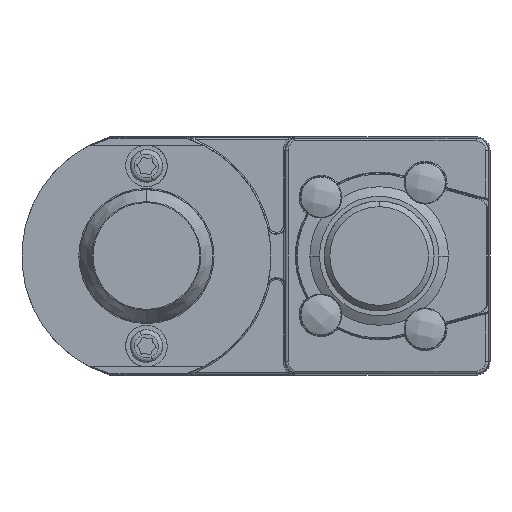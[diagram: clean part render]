
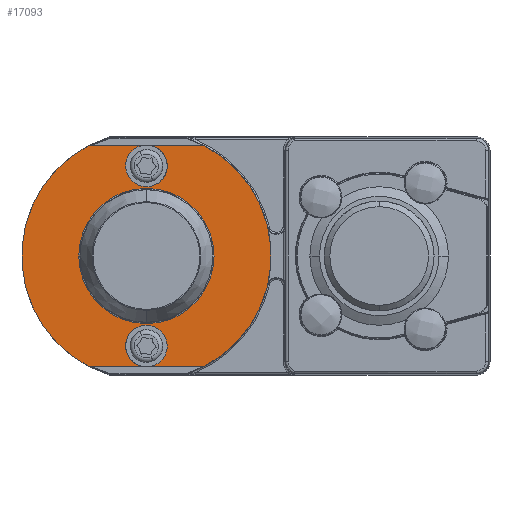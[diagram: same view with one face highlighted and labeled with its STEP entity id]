
A CAD part, front view. The second image highlights one B-rep face of the part: STEP entity #17093.
In plain terms, the highlighted planar face has unit normal (0, -1, 0).
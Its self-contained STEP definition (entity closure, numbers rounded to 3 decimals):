
#235 = CIRCLE ( 'NONE', #17242, 22.567 ) ;
#463 = EDGE_CURVE ( 'NONE', #5447, #2399, #22274, .T. ) ;
#495 = DIRECTION ( 'NONE',  ( 0., 0., 1. ) ) ;
#628 = DIRECTION ( 'NONE',  ( 0.406, 0., -0.914 ) ) ;
#640 = VECTOR ( 'NONE', #11612, 1000. ) ;
#744 = VERTEX_POINT ( 'NONE', #16264 ) ;
#894 = CARTESIAN_POINT ( 'NONE',  ( -0.074, -95.135, 16.299 ) ) ;
#1124 = AXIS2_PLACEMENT_3D ( 'NONE', #10400, #2715, #495 ) ;
#1268 = CARTESIAN_POINT ( 'NONE',  ( -0.074, -95.135, 16.299 ) ) ;
#1336 = CARTESIAN_POINT ( 'NONE',  ( -1.599, -95.135, -12.861 ) ) ;
#2398 = DIRECTION ( 'NONE',  ( 0., 0., 1. ) ) ;
#2399 = VERTEX_POINT ( 'NONE', #21632 ) ;
#2504 = DIRECTION ( 'NONE',  ( 0., 0., -1. ) ) ;
#2522 = ORIENTED_EDGE ( 'NONE', *, *, #10955, .F. ) ;
#2533 = EDGE_LOOP ( 'NONE', ( #4403, #22504, #18354, #15937, #2522, #20772, #25022, #18305, #12175, #11706, #11176, #3073 ) ) ;
#2715 = DIRECTION ( 'NONE',  ( 0., 1., 0. ) ) ;
#2805 = CIRCLE ( 'NONE', #1124, 3.761 ) ;
#2973 = AXIS2_PLACEMENT_3D ( 'NONE', #20860, #9207, #24827 ) ;
#3073 = ORIENTED_EDGE ( 'NONE', *, *, #12799, .F. ) ;
#3268 = DIRECTION ( 'NONE',  ( -1., 0., 0. ) ) ;
#3847 = CARTESIAN_POINT ( 'NONE',  ( 10.265, -95.135, -20.06 ) ) ;
#4098 = CARTESIAN_POINT ( 'NONE',  ( -0.074, -95.135, 0. ) ) ;
#4403 = ORIENTED_EDGE ( 'NONE', *, *, #23367, .F. ) ;
#5157 = DIRECTION ( 'NONE',  ( 0., 1., 0. ) ) ;
#5447 = VERTEX_POINT ( 'NONE', #1336 ) ;
#6221 = CARTESIAN_POINT ( 'NONE',  ( 1.452, -95.135, 12.861 ) ) ;
#6225 = CARTESIAN_POINT ( 'NONE',  ( -0.074, -95.135, -16.299 ) ) ;
#6567 = CARTESIAN_POINT ( 'NONE',  ( -10.412, -95.135, 20.06 ) ) ;
#6679 = CARTESIAN_POINT ( 'NONE',  ( 10.265, -95.135, 20.06 ) ) ;
#6708 = CARTESIAN_POINT ( 'NONE',  ( -0.074, -95.135, 12.237 ) ) ;
#6845 = LINE ( 'NONE', #17030, #12725 ) ;
#6992 = VECTOR ( 'NONE', #3268, 1000. ) ;
#7113 = VERTEX_POINT ( 'NONE', #6679 ) ;
#7378 = DIRECTION ( 'NONE',  ( 0., -1., 0. ) ) ;
#7402 = CARTESIAN_POINT ( 'NONE',  ( -0.074, -95.135, -20.06 ) ) ;
#7584 = AXIS2_PLACEMENT_3D ( 'NONE', #8264, #8100, #2398 ) ;
#7611 = DIRECTION ( 'NONE',  ( 1., 0., 0. ) ) ;
#7698 = VERTEX_POINT ( 'NONE', #23822 ) ;
#7709 = ORIENTED_EDGE ( 'NONE', *, *, #9591, .T. ) ;
#7830 = FACE_OUTER_BOUND ( 'NONE', #2533, .T. ) ;
#7872 = CIRCLE ( 'NONE', #20975, 22.568 ) ;
#8100 = DIRECTION ( 'NONE',  ( 0., 1., 0. ) ) ;
#8139 = FACE_BOUND ( 'NONE', #9762, .T. ) ;
#8264 = CARTESIAN_POINT ( 'NONE',  ( -0.074, -95.135, 0. ) ) ;
#8371 = DIRECTION ( 'NONE',  ( 0., 1., 0. ) ) ;
#8641 = DIRECTION ( 'NONE',  ( 0.406, 0., -0.914 ) ) ;
#8675 = EDGE_CURVE ( 'NONE', #19254, #14825, #2805, .T. ) ;
#8955 = VERTEX_POINT ( 'NONE', #19629 ) ;
#9068 = EDGE_CURVE ( 'NONE', #744, #19519, #10835, .T. ) ;
#9207 = DIRECTION ( 'NONE',  ( 0., 1., 0. ) ) ;
#9274 = CIRCLE ( 'NONE', #7584, 12.237 ) ;
#9591 = EDGE_CURVE ( 'NONE', #19471, #10791, #9274, .T. ) ;
#9686 = VERTEX_POINT ( 'NONE', #15970 ) ;
#9762 = EDGE_LOOP ( 'NONE', ( #7709, #17910 ) ) ;
#9775 = EDGE_CURVE ( 'NONE', #9686, #19254, #15461, .T. ) ;
#9829 = DIRECTION ( 'NONE',  ( 0., 1., 0. ) ) ;
#9873 = AXIS2_PLACEMENT_3D ( 'NONE', #6225, #8371, #2504 ) ;
#9910 = DIRECTION ( 'NONE',  ( -0.458, 0., -0.889 ) ) ;
#10043 = AXIS2_PLACEMENT_3D ( 'NONE', #17852, #7378, #22986 ) ;
#10400 = CARTESIAN_POINT ( 'NONE',  ( -0.074, -95.135, 16.299 ) ) ;
#10532 = EDGE_CURVE ( 'NONE', #2399, #19519, #25296, .T. ) ;
#10727 = EDGE_CURVE ( 'NONE', #10791, #19471, #21566, .T. ) ;
#10791 = VERTEX_POINT ( 'NONE', #10956 ) ;
#10820 = AXIS2_PLACEMENT_3D ( 'NONE', #13894, #15880, #17874 ) ;
#10835 = LINE ( 'NONE', #3847, #640 ) ;
#10955 = EDGE_CURVE ( 'NONE', #8955, #19254, #24026, .T. ) ;
#10956 = CARTESIAN_POINT ( 'NONE',  ( -0.074, -95.135, -12.237 ) ) ;
#11176 = ORIENTED_EDGE ( 'NONE', *, *, #9068, .F. ) ;
#11612 = DIRECTION ( 'NONE',  ( -1., 0., 0. ) ) ;
#11706 = ORIENTED_EDGE ( 'NONE', *, *, #10532, .T. ) ;
#11909 = AXIS2_PLACEMENT_3D ( 'NONE', #1268, #5157, #15095 ) ;
#12175 = ORIENTED_EDGE ( 'NONE', *, *, #463, .T. ) ;
#12609 = DIRECTION ( 'NONE',  ( 1., 0., 0. ) ) ;
#12725 = VECTOR ( 'NONE', #7611, 1000. ) ;
#12799 = EDGE_CURVE ( 'NONE', #7113, #744, #235, .T. ) ;
#13022 = EDGE_CURVE ( 'NONE', #14825, #9686, #21829, .T. ) ;
#13365 = CARTESIAN_POINT ( 'NONE',  ( -0.074, -95.135, 20.06 ) ) ;
#13452 = AXIS2_PLACEMENT_3D ( 'NONE', #894, #16693, #8641 ) ;
#13894 = CARTESIAN_POINT ( 'NONE',  ( -0.074, -95.135, -16.299 ) ) ;
#13958 = DIRECTION ( 'NONE',  ( 0., 1., 0. ) ) ;
#14272 = DIRECTION ( 'NONE',  ( 0., 1., 0. ) ) ;
#14359 = CARTESIAN_POINT ( 'NONE',  ( -0.074, -95.135, -16.299 ) ) ;
#14825 = VERTEX_POINT ( 'NONE', #6221 ) ;
#15095 = DIRECTION ( 'NONE',  ( -0.406, 0., 0.914 ) ) ;
#15111 = VECTOR ( 'NONE', #12609, 1000. ) ;
#15461 = CIRCLE ( 'NONE', #11909, 3.761 ) ;
#15880 = DIRECTION ( 'NONE',  ( 0., 1., 0. ) ) ;
#15937 = ORIENTED_EDGE ( 'NONE', *, *, #9775, .T. ) ;
#15970 = CARTESIAN_POINT ( 'NONE',  ( -1.599, -95.135, 19.737 ) ) ;
#16098 = DIRECTION ( 'NONE',  ( 0.458, 0., 0.889 ) ) ;
#16214 = AXIS2_PLACEMENT_3D ( 'NONE', #14359, #14272, #628 ) ;
#16264 = CARTESIAN_POINT ( 'NONE',  ( 10.265, -95.135, -20.06 ) ) ;
#16693 = DIRECTION ( 'NONE',  ( 0., 1., 0. ) ) ;
#17030 = CARTESIAN_POINT ( 'NONE',  ( -0.074, -95.135, 20.06 ) ) ;
#17093 = ADVANCED_FACE ( 'NONE', ( #7830, #8139 ), #18705, .T. ) ;
#17242 = AXIS2_PLACEMENT_3D ( 'NONE', #4098, #13958, #16098 ) ;
#17852 = CARTESIAN_POINT ( 'NONE',  ( -0.074, -95.135, 0. ) ) ;
#17874 = DIRECTION ( 'NONE',  ( -0.406, 0., 0.914 ) ) ;
#17888 = CARTESIAN_POINT ( 'NONE',  ( -0.074, -95.135, 0. ) ) ;
#17910 = ORIENTED_EDGE ( 'NONE', *, *, #10727, .T. ) ;
#18000 = EDGE_CURVE ( 'NONE', #19519, #7698, #25248, .T. ) ;
#18305 = ORIENTED_EDGE ( 'NONE', *, *, #24586, .T. ) ;
#18354 = ORIENTED_EDGE ( 'NONE', *, *, #13022, .T. ) ;
#18705 = PLANE ( 'NONE',  #10043 ) ;
#19254 = VERTEX_POINT ( 'NONE', #13365 ) ;
#19471 = VERTEX_POINT ( 'NONE', #6708 ) ;
#19519 = VERTEX_POINT ( 'NONE', #24819 ) ;
#19629 = CARTESIAN_POINT ( 'NONE',  ( -10.412, -95.135, 20.06 ) ) ;
#20433 = EDGE_CURVE ( 'NONE', #7698, #8955, #7872, .T. ) ;
#20772 = ORIENTED_EDGE ( 'NONE', *, *, #20433, .F. ) ;
#20860 = CARTESIAN_POINT ( 'NONE',  ( -0.074, -95.135, 0. ) ) ;
#20975 = AXIS2_PLACEMENT_3D ( 'NONE', #17888, #9829, #9910 ) ;
#21566 = CIRCLE ( 'NONE', #2973, 12.237 ) ;
#21632 = CARTESIAN_POINT ( 'NONE',  ( 1.452, -95.135, -19.737 ) ) ;
#21829 = CIRCLE ( 'NONE', #13452, 3.761 ) ;
#22274 = CIRCLE ( 'NONE', #10820, 3.761 ) ;
#22504 = ORIENTED_EDGE ( 'NONE', *, *, #8675, .T. ) ;
#22546 = CIRCLE ( 'NONE', #9873, 3.761 ) ;
#22986 = DIRECTION ( 'NONE',  ( 0., 0., -1. ) ) ;
#23367 = EDGE_CURVE ( 'NONE', #19254, #7113, #6845, .T. ) ;
#23822 = CARTESIAN_POINT ( 'NONE',  ( -10.412, -95.135, -20.06 ) ) ;
#24026 = LINE ( 'NONE', #6567, #15111 ) ;
#24586 = EDGE_CURVE ( 'NONE', #19519, #5447, #22546, .T. ) ;
#24819 = CARTESIAN_POINT ( 'NONE',  ( -0.074, -95.135, -20.06 ) ) ;
#24827 = DIRECTION ( 'NONE',  ( 0., 0., -1. ) ) ;
#25022 = ORIENTED_EDGE ( 'NONE', *, *, #18000, .F. ) ;
#25248 = LINE ( 'NONE', #7402, #6992 ) ;
#25296 = CIRCLE ( 'NONE', #16214, 3.761 ) ;
